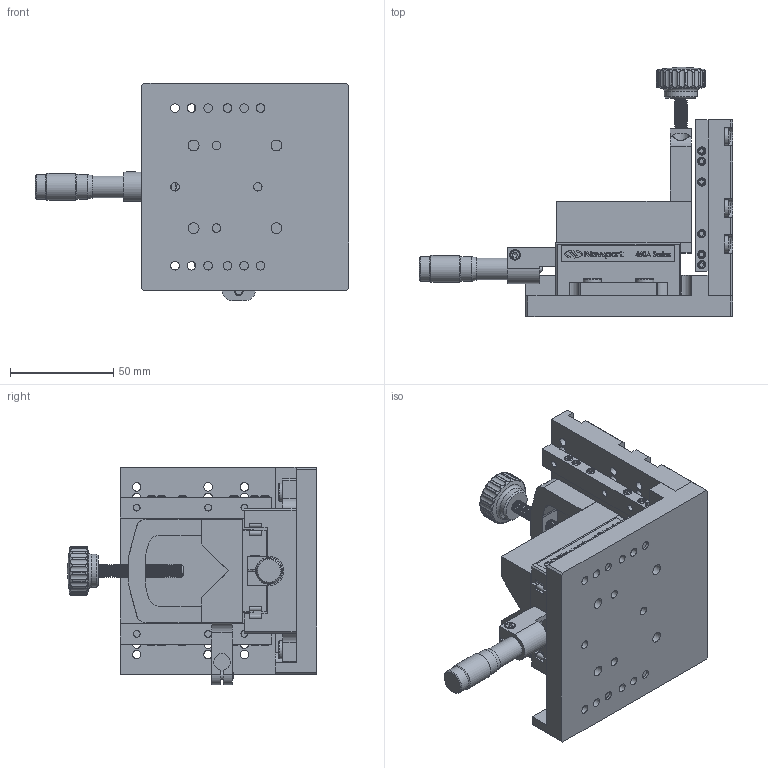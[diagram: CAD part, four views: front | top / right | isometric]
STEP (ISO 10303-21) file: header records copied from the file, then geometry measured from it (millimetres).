
FILE_DESCRIPTION( ( 'STEP AP214' ), '1' );
FILE_NAME( 'N:/Engineering/CAD_Solid/Wirbelstrom/Kalibriervorrichtung/Mirco-KALIB-V1.stp', '2014-02-04T11:47:45', ( ' ' ), ( ' ' ), 'XStep 1.0', ' ', ' ' );
FILE_SCHEMA( ( 'CONFIG_CONTROL_DESIGN) ( )' ) );
Length unit declared in the file: metre
Products named in the file (39): 1; 2; 3; 4; 5; 6; 7; 8; 9; 10; HI_St. Steel-Knurled nut GN 536-24-M6-MT; 11; 12; 13; 14; 15; 16; 17; 18; 19; 20; 21; 22; 23; 24; 25; 26
Bounding box: 151.58 x 120.58 x 105.04 mm (x, y, z)
Volume: 7809 mm3; surface area: 111755.9 mm2
Topology: 5 solids, 892 shells, 962 faces, 5088 edges, 4853 vertices
Faces by surface type: plane 590, cylinder 263, cone 51, extrusion 18, sphere 14, torus 14, bspline 12
Full cylindrical faces by diameter (mm): 2.261 x1, 2.48 x12, 2.845 x1, 3 x9, 3.175 x1, 3.242 x20, 4 x13, 4.1 x12, 4.134 x17, 4.648 x1, 5.156 x1, 5.2 x4, 7.144 x2, 7.5 x1, 8 x7, 8.4 x2, 8.5 x3, 8.7 x4, 8.9 x1, 9 x6, 9.5 x1, 9.538 x1, 10 x4, 10.312 x4, 10.5 x1, 12 x2, 13 x1, 16 x1
Entity records: 65993 total; most frequent: CARTESIAN_POINT 25864, DIRECTION 6957, ORIENTED_EDGE 4937, EDGE_CURVE 4802, VERTEX_POINT 4776, VECTOR 3193, LINE 3175, AXIS2_PLACEMENT_3D 1882
